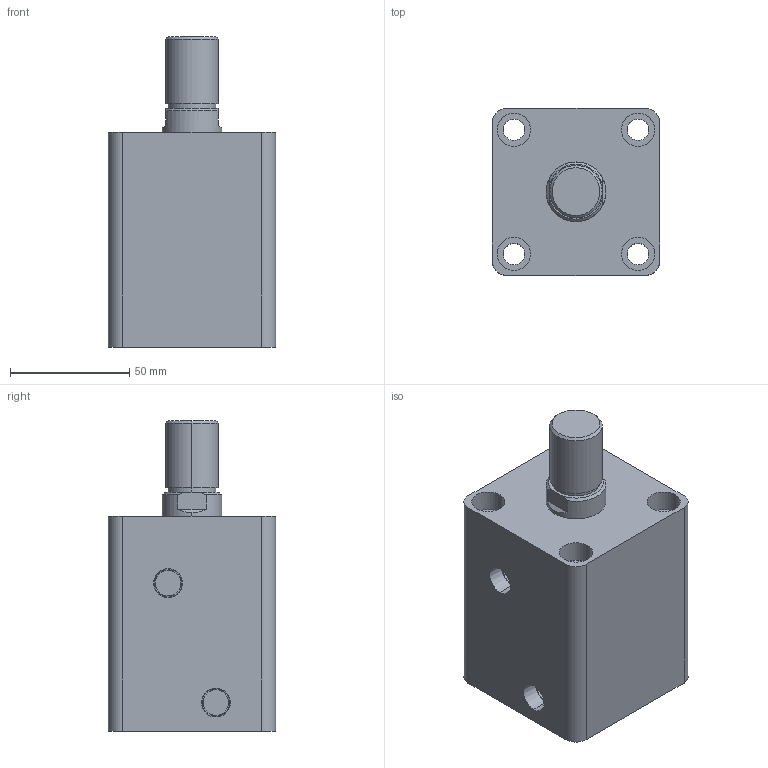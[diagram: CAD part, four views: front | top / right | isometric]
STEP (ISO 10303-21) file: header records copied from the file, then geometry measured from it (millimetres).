
FILE_DESCRIPTION (( 'STEP AP203' ), '1' );
FILE_NAME ('HTB-SD40-35W.STEP', '2019-10-07T06:50:30', ( '微软用户' ), ( '微软中国' ), 'SwSTEP 2.0', 'SolidWorks 2012', '' );
FILE_SCHEMA (( 'CONFIG_CONTROL_DESIGN' ));
Length unit declared in the file: millimetre
Products named in the file (3): HTB-SD40-35掛极; HTB-SD40-35W活塞杆; HTB-SD40-35W
Assembly tree (2 placements, depth 2):
  HTB-SD40-35W
    HTB-SD40-35掛极
    HTB-SD40-35W活塞杆
Bounding box: 70 x 70 x 130 mm (x, y, z)
Volume: 395994.1 mm3; surface area: 68272.9 mm2
Topology: 2 solids, 2 shells, 85 faces, 186 edges, 122 vertices
Faces by surface type: cylinder 44, plane 29, cone 8, torus 4
Entity records: 2709 total; most frequent: DIRECTION 466, CARTESIAN_POINT 426, ORIENTED_EDGE 372, AXIS2_PLACEMENT_3D 198, EDGE_CURVE 186, VERTEX_POINT 122, EDGE_LOOP 110, CIRCLE 108
